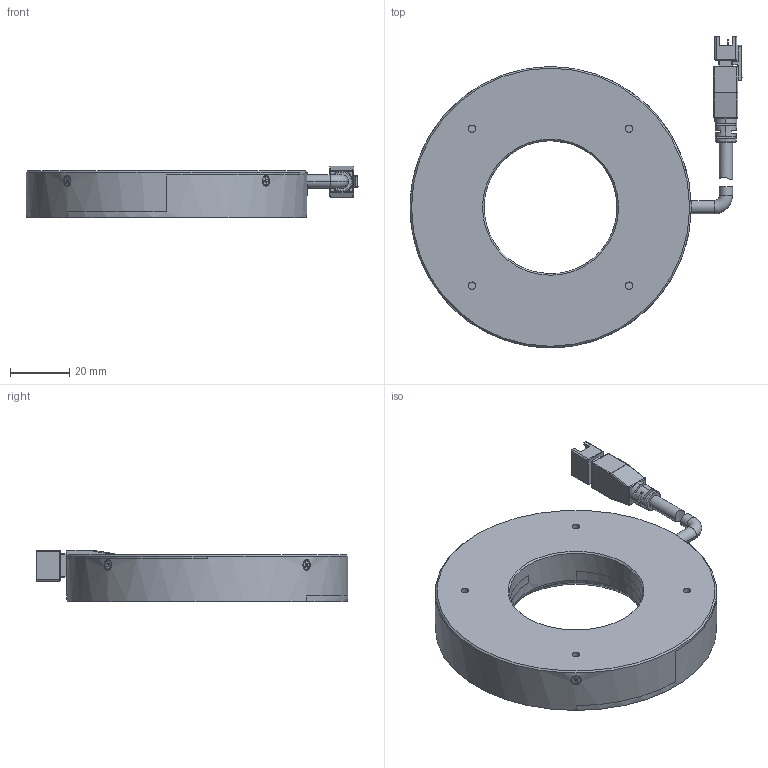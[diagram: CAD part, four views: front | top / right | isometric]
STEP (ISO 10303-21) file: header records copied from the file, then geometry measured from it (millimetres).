
FILE_DESCRIPTION((''),'2;1');
FILE_NAME('95-60','2024-01-30T11:19:43',('qiaoxuan5'),(''),'CREO PARAMETRIC BY PTC INC, 2020044','CREO PARAMETRIC BY PTC INC, 2020044','');
FILE_SCHEMA(('CONFIG_CONTROL_DESIGN'));
Length unit declared in the file: millimetre
Products named in the file (1): 95-60
Bounding box: 112.19 x 105.3 x 17.5 mm (x, y, z)
Volume: 76175.4 mm3; surface area: 34257.9 mm2
Topology: 2 solids, 19 shells, 698 faces, 1704 edges, 1053 vertices
Faces by surface type: plane 396, cylinder 192, cone 75, torus 18, bspline 8, sphere 8, extrusion 1
Entity records: 21557 total; most frequent: CARTESIAN_POINT 5085, DIRECTION 3449, ORIENTED_EDGE 3376, EDGE_CURVE 1688, AXIS2_PLACEMENT_3D 1192, VECTOR 1065, LINE 1064, VERTEX_POINT 1053
